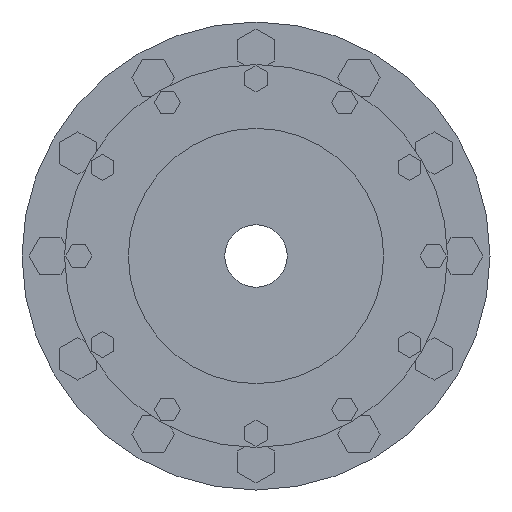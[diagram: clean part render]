
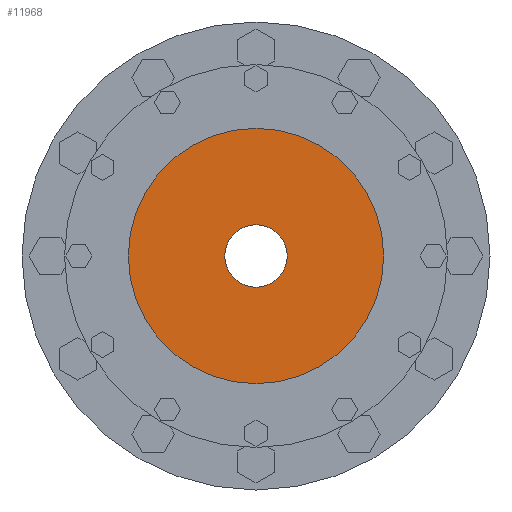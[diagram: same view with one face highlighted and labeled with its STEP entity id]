
A CAD part, left-side view. The second image highlights one B-rep face of the part: STEP entity #11968.
In plain terms, the highlighted planar face has unit normal (-1, 0, 0).
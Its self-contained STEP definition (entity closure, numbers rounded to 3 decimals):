
#11666=CARTESIAN_POINT('',(-83.,0.,0.));
#11667=DIRECTION('',(1.,0.,0.));
#11668=DIRECTION('',(0.,1.,0.));
#11669=AXIS2_PLACEMENT_3D('',#11666,#11667,#11668);
#11745=CARTESIAN_POINT('',(-83.,0.,0.));
#11746=DIRECTION('',(-1.,0.,0.));
#11747=DIRECTION('',(0.,1.,0.));
#11748=AXIS2_PLACEMENT_3D('',#11745,#11746,#11747);
#11750=CARTESIAN_POINT('',(-83.,0.,0.));
#11751=DIRECTION('',(1.,0.,0.));
#11752=DIRECTION('',(0.,1.,0.));
#11753=AXIS2_PLACEMENT_3D('',#11750,#11751,#11752);
#11764=CARTESIAN_POINT('',(-83.,0.,0.));
#11765=DIRECTION('',(-1.,0.,0.));
#11766=DIRECTION('',(0.,1.,0.));
#11767=AXIS2_PLACEMENT_3D('',#11764,#11765,#11766);
#11773=CARTESIAN_POINT('',(-83.,11.,0.));
#11774=CARTESIAN_POINT('',(-83.,-11.,0.));
#11775=VERTEX_POINT('',#11773);
#11776=VERTEX_POINT('',#11774);
#11777=CARTESIAN_POINT('',(-83.,45.,0.));
#11778=CARTESIAN_POINT('',(-83.,-45.,0.));
#11779=VERTEX_POINT('',#11777);
#11780=VERTEX_POINT('',#11778);
#11954=CARTESIAN_POINT('',(-83.,0.,0.));
#11955=DIRECTION('',(1.,0.,0.));
#11956=DIRECTION('',(0.,-1.,0.));
#11957=AXIS2_PLACEMENT_3D('',#11954,#11955,#11956);
#11958=PLANE('',#11957);
#11959=ORIENTED_EDGE('',*,*,#11936,.F.);
#11960=ORIENTED_EDGE('',*,*,#11949,.T.);
#11961=EDGE_LOOP('',(#11959,#11960));
#11962=FACE_OUTER_BOUND('',#11961,.F.);
#11963=ORIENTED_EDGE('',*,*,#11814,.F.);
#11965=ORIENTED_EDGE('',*,*,#11964,.T.);
#11966=EDGE_LOOP('',(#11963,#11965));
#11967=FACE_BOUND('',#11966,.F.);
#11968=ADVANCED_FACE('',(#11962,#11967),#11958,.F.);
#11670=CIRCLE('',#11669,11.);
#11749=CIRCLE('',#11748,45.);
#11754=CIRCLE('',#11753,45.);
#11768=CIRCLE('',#11767,11.);
#11814=EDGE_CURVE('',#11775,#11776,#11670,.T.);
#11936=EDGE_CURVE('',#11779,#11780,#11749,.T.);
#11949=EDGE_CURVE('',#11779,#11780,#11754,.T.);
#11964=EDGE_CURVE('',#11775,#11776,#11768,.T.);
